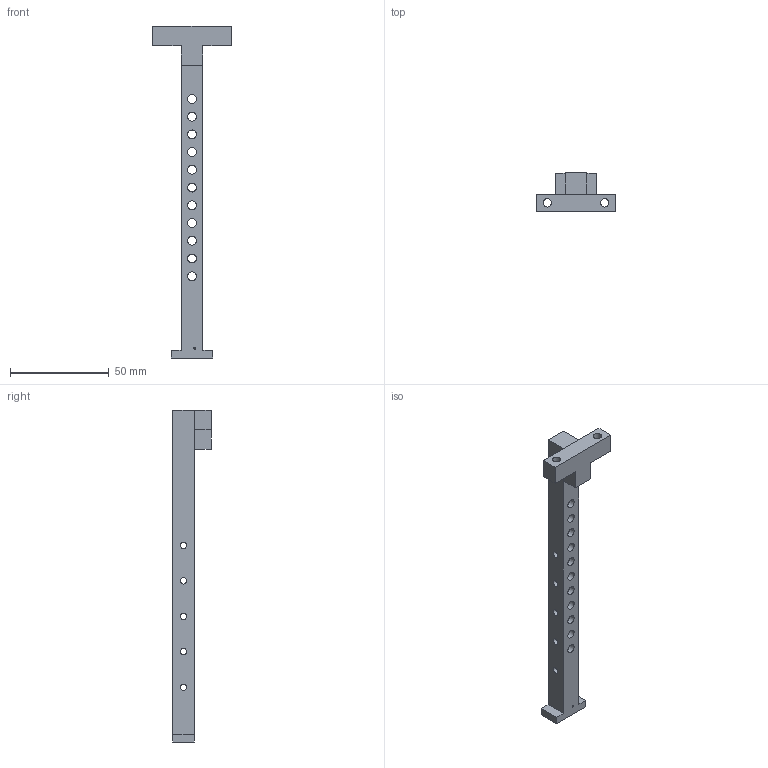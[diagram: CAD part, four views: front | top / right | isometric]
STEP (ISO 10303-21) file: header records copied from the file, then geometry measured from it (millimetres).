
FILE_DESCRIPTION(/* description */ (''),/* implementation_level */ '2;1');
FILE_NAME(/* name */ '',/* time_stamp */ '2026-05-15T16:13:16+08:00',/* author */ ('32769'),/* organization */ (''),/* preprocessor_version */ 'ST-DEVELOPER v20',/* originating_system */ 'Autodesk Inventor 2025',/* authorisation */ '');
FILE_SCHEMA (('AUTOMOTIVE_DESIGN { 1 0 10303 214 3 1 1 }'));
Length unit declared in the file: millimetre
Products named in the file (3): 铜柱; assemble rod2 for Ba longipt; assemble support2
Assembly tree (2 placements, depth 2):
  铜柱
    assemble rod2 for Ba longipt
    assemble support2
Bounding box: 40 x 19.6 x 168.5 mm (x, y, z)
Volume: 22408.2 mm3; surface area: 12209.1 mm2
Topology: 2 solids, 2 shells, 42 faces, 132 edges, 109 vertices
Faces by surface type: cylinder 21, plane 20, cone 1
Full cylindrical faces by diameter (mm): 1 x2, 3.242 x5, 4 x1, 4.3 x2, 4.5 x11
Entity records: 1652 total; most frequent: CARTESIAN_POINT 319, DIRECTION 247, ORIENTED_EDGE 226, EDGE_CURVE 113, AXIS2_PLACEMENT_3D 88, EDGE_LOOP 81, VERTEX_POINT 74, LINE 71
